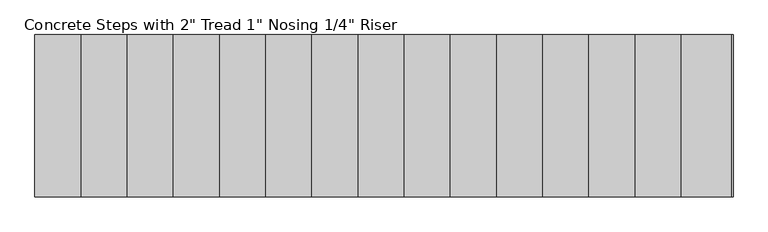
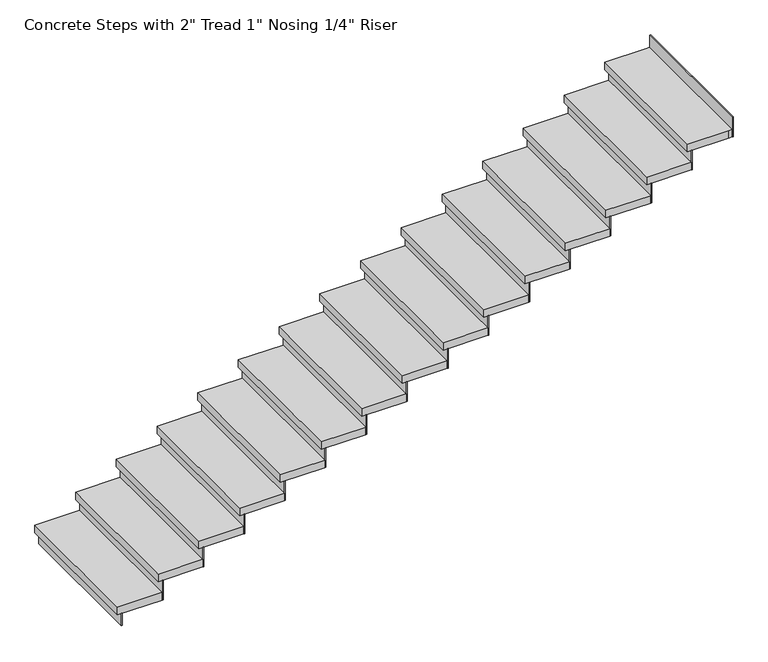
"""IFC4 building model written with IfcOpenShell, lengths in millimetres: stair flight geometry."""

import ifcopenshell
import ifcopenshell.guid

model = None  # the IFC model being written
_history = None  # IfcOwnerHistory: only IFC2X3 demands one
_inside = {}  # id of a spatial element -> (the spatial element, [elements in it])
_under = {}  # id of a project, library or spatial element -> (it, [spatial elements below it])
_declared = {}  # id of a project -> (the project, [libraries it declares])
_typed = {}  # id of a type object -> (the type object, [elements of that type])
_made_of = {}  # id of a material, layer set ... -> (it, [elements and type objects made of it])


def new_model(schema):
    """Start an empty IFC model of exactly this schema.

    Asked for "IFC4X3", IfcOpenShell would pick the latest addendum, in which some entities
    have other attributes; the version numbers below select the first issue.
    IFC2X3 requires an IfcOwnerHistory on every rooted entity: one is made here for all.
    """
    global model, _history
    if schema == "IFC4X3":
        model = ifcopenshell.file(schema_version=(4, 3, 0, 0))
    else:
        model = ifcopenshell.file(schema=schema)
    _inside.clear()
    _under.clear()
    _declared.clear()
    _typed.clear()
    _made_of.clear()
    _history = None
    if model.schema == "IFC2X3":
        org = make("IfcOrganization", Name="unknown")
        user = make(
            "IfcPersonAndOrganization",
            ThePerson=make("IfcPerson", FamilyName="unknown"),
            TheOrganization=org,
        )
        app = make(
            "IfcApplication",
            ApplicationDeveloper=org,
            Version="unknown",
            ApplicationFullName="unknown",
            ApplicationIdentifier="unknown",
        )
        _history = make(
            "IfcOwnerHistory",
            OwningUser=user,
            OwningApplication=app,
            ChangeAction="ADDED",
            CreationDate=0,
        )
    return model


def make(cls, **values):
    """One entity of the class cls with the attributes given. An attribute that is None is left unset."""
    return model.create_entity(
        cls, **{name: value for name, value in values.items() if value is not None}
    )


def rooted(cls, **values):
    """An entity with a GlobalId (a new one), such as an element, a storey or a relation."""
    return make(cls, GlobalId=ifcopenshell.guid.new(), OwnerHistory=_history, **values)


def si_unit(unit_type, name, prefix=None):
    """IfcSIUnit, for example si_unit("LENGTHUNIT", "METRE", prefix="MILLI")."""
    return make("IfcSIUnit", UnitType=unit_type, Prefix=prefix, Name=name)


def assignment(units):
    """IfcUnitAssignment: the units of a project."""
    return None if units is None else make("IfcUnitAssignment", Units=units)


def point(xyz):
    """IfcCartesianPoint."""
    return None if xyz is None else make("IfcCartesianPoint", Coordinates=xyz)


def direction(xyz):
    """IfcDirection."""
    return None if xyz is None else make("IfcDirection", DirectionRatios=xyz)


def frame(location, z_axis=None, x_axis=None):
    """IfcAxis2Placement3D, a coordinate frame: its origin and axes. An axis left out is left unset."""
    return make(
        "IfcAxis2Placement3D",
        Location=point(location),
        Axis=direction(z_axis),
        RefDirection=direction(x_axis),
    )


def origin():
    """The frame at (0, 0, 0) with its axes left unset."""
    return frame((0.0, 0.0, 0.0))


def origin_with_axes():
    """The frame at (0, 0, 0) with the z axis (0, 0, 1) and the x axis (1, 0, 0) written out."""
    return frame((0.0, 0.0, 0.0), z_axis=(0.0, 0.0, 1.0), x_axis=(1.0, 0.0, 0.0))


def place(relative_to, where):
    """IfcLocalPlacement: puts the frame where relative to a parent placement (None: the world)."""
    return make(
        "IfcLocalPlacement", PlacementRelTo=relative_to, RelativePlacement=where
    )


def context(
    kind, dimensions, precision=None, world=None, true_north=None, identifier=None
):
    """IfcGeometricRepresentationContext, for example the 3D "Model" context."""
    return make(
        "IfcGeometricRepresentationContext",
        ContextIdentifier=identifier,
        ContextType=kind,
        CoordinateSpaceDimension=dimensions,
        Precision=precision,
        WorldCoordinateSystem=world,
        TrueNorth=true_north,
    )


def project(units=None, contexts=None):
    """IfcProject with its units and contexts."""
    return rooted(
        "IfcProject",
        Name="project",
        RepresentationContexts=contexts,
        UnitsInContext=assignment(units),
    )


def spatial(cls, under=None, at=None, **own):
    """A site, building, storey or space (cls), placed at a placement, below another one or the project."""
    s = rooted(cls, ObjectPlacement=at, **own)
    if under is not None:
        _under.setdefault(under.id(), (under, []))[1].append(s)
    return s


def polyline(points):
    """IfcPolyline through the points."""
    return make("IfcPolyline", Points=[point(p) for p in points])


def outline(outer, holes=None, kind="AREA"):
    """IfcArbitraryClosedProfileDef: a profile drawn as a closed curve; with holes, ...WithVoids."""
    if holes is None:
        return make("IfcArbitraryClosedProfileDef", ProfileType=kind, OuterCurve=outer)
    return make(
        "IfcArbitraryProfileDefWithVoids",
        ProfileType=kind,
        OuterCurve=outer,
        InnerCurves=holes,
    )


def extrude(swept, where, along, depth):
    """IfcExtrudedAreaSolid: the profile swept, set in the frame where, extruded along a direction by depth."""
    return make(
        "IfcExtrudedAreaSolid",
        SweptArea=swept,
        Position=where,
        ExtrudedDirection=direction(along),
        Depth=depth,
    )


def shape(context_of_items, identifier, shape_type, items):
    """IfcShapeRepresentation: the items that make up one representation, for example the "Body"."""
    return make(
        "IfcShapeRepresentation",
        ContextOfItems=context_of_items,
        RepresentationIdentifier=identifier,
        RepresentationType=shape_type,
        Items=items,
    )


def source(mapping_origin, context_of_items, identifier, shape_type, items):
    """IfcRepresentationMap: a shape defined once, which mapped items show again and again."""
    return make(
        "IfcRepresentationMap",
        MappingOrigin=mapping_origin,
        MappedRepresentation=shape(context_of_items, identifier, shape_type, items),
    )


def transform(
    local_origin,
    x_axis=None,
    y_axis=None,
    z_axis=None,
    scale=None,
    scale2=None,
    scale3=None,
    uniform=True,
):
    """IfcCartesianTransformationOperator3D, or its non-uniform kind. x_axis, y_axis, z_axis: its Axis1, 2, 3."""
    if uniform:
        return make(
            "IfcCartesianTransformationOperator3D",
            Axis1=direction(x_axis),
            Axis2=direction(y_axis),
            LocalOrigin=point(local_origin),
            Scale=scale,
            Axis3=direction(z_axis),
        )
    return make(
        "IfcCartesianTransformationOperator3DnonUniform",
        Axis1=direction(x_axis),
        Axis2=direction(y_axis),
        LocalOrigin=point(local_origin),
        Scale=scale,
        Axis3=direction(z_axis),
        Scale2=scale2,
        Scale3=scale3,
    )


def mapped(mapping_source, mapping_target):
    """IfcMappedItem: shows the shape of a source again, moved by a transform."""
    return make(
        "IfcMappedItem", MappingSource=mapping_source, MappingTarget=mapping_target
    )


def made_of(thing, what):
    """Note that an element or type object is made of a material, layer set ...; save() writes the relation."""
    if what is not None:
        _made_of.setdefault(what.id(), (what, []))[1].append(thing)
    return thing


def element(
    cls,
    number,
    at=None,
    inside=None,
    cuts=None,
    type_object=None,
    material=None,
    context=None,
    identifier="Body",
    shape_type=None,
    held_by="IfcProductDefinitionShape",
    body=None,
    shapes=None,
    **own,
):
    """One element of the class cls, such as IfcWall. Its Tag is "e" and its number.

    at: its placement. inside: the storey or other place that contains it. cuts: it is an
    opening in that element (IfcRelVoidsElement). A single representation is given by context,
    identifier, shape_type and body (its items); several are given by shapes. held_by: the class
    of the entity that holds the representations. save() writes the other relations.
    """
    e = rooted(cls, Tag="e%d" % number, ObjectPlacement=at, **own)
    if body is not None:
        shapes = [shape(context, identifier, shape_type, body)]
    if shapes is not None:
        e.Representation = make(held_by, Representations=shapes)
    if inside is not None:
        _inside.setdefault(inside.id(), (inside, []))[1].append(e)
    if cuts is not None:
        rooted(
            "IfcRelVoidsElement", RelatingBuildingElement=cuts, RelatedOpeningElement=e
        )
    if type_object is not None:
        _typed.setdefault(type_object.id(), (type_object, []))[1].append(e)
    return made_of(e, material)


def aggregate(whole, parts):
    """IfcRelAggregates: a whole, such as a stair, and the parts it consists of."""
    return rooted("IfcRelAggregates", RelatingObject=whole, RelatedObjects=parts)


def save(model, path):
    """Write the relations noted so far, then the file.

    IfcRelAggregates (storeys below a building ...), IfcRelContainedInSpatialStructure (elements
    in a storey), IfcRelDefinesByType, IfcRelAssociatesMaterial and IfcRelDeclares: one each for
    every whole, place, type object, material and project.
    """
    for whole, parts in _under.values():
        aggregate(whole, parts)
    for where, things in _inside.values():
        rooted(
            "IfcRelContainedInSpatialStructure",
            RelatedElements=things,
            RelatingStructure=where,
        )
    for kind, things in _typed.values():
        rooted("IfcRelDefinesByType", RelatedObjects=things, RelatingType=kind)
    for what, things in _made_of.values():
        rooted("IfcRelAssociatesMaterial", RelatedObjects=things, RelatingMaterial=what)
    for by, libraries in _declared.values():
        rooted("IfcRelDeclares", RelatingContext=by, RelatedDefinitions=libraries)
    model.write(path)


def stair_flight_5856ef12(model_context):
    return source(origin(), model_context, "Body", "SweptSolid", [
        extrude(outline(polyline([(1403.4721922, 12968.7406645), (1397.1221922, 12968.7406645), (1397.1221922, 13883.1406645), (1403.4721922, 13883.1406645), (1403.4721922, 12968.7406645)])), origin_with_axes(), (0.0, 0.0, 1.0), 81.7217391),
        extrude(outline(polyline([(1657.4721922, 13883.1406645), (1657.4721922, 12968.7406645), (1371.7221922, 12968.7406645), (1371.7221922, 13883.1406645), (1657.4721922, 13883.1406645)])), frame((0.0, 0.0, 81.7217391), z_axis=(0.0, 0.0, 1.0), x_axis=(1.0, 0.0, 0.0)), (0.0, 0.0, 1.0), 50.8),
        extrude(outline(polyline([(1663.8221922, 12968.7406645), (1657.4721922, 12968.7406645), (1657.4721922, 13883.1406645), (1663.8221922, 13883.1406645), (1663.8221922, 12968.7406645)])), frame((0.0, 0.0, 81.7217391), z_axis=(0.0, 0.0, 1.0), x_axis=(1.0, 0.0, 0.0)), (0.0, 0.0, 1.0), 132.5217391),
        extrude(outline(polyline([(1917.8221922, 13883.1406645), (1917.8221922, 12968.7406645), (1632.0721922, 12968.7406645), (1632.0721922, 13883.1406645), (1917.8221922, 13883.1406645)])), frame((0.0, 0.0, 214.2434783), z_axis=(0.0, 0.0, 1.0), x_axis=(1.0, 0.0, 0.0)), (0.0, 0.0, 1.0), 50.8),
        extrude(outline(polyline([(1924.1721922, 12968.7406645), (1917.8221922, 12968.7406645), (1917.8221922, 13883.1406645), (1924.1721922, 13883.1406645), (1924.1721922, 12968.7406645)])), frame((0.0, 0.0, 214.2434783), z_axis=(0.0, 0.0, 1.0), x_axis=(1.0, 0.0, 0.0)), (0.0, 0.0, 1.0), 132.5217391),
        extrude(outline(polyline([(2178.1721922, 13883.1406645), (2178.1721922, 12968.7406645), (1892.4221922, 12968.7406645), (1892.4221922, 13883.1406645), (2178.1721922, 13883.1406645)])), frame((0.0, 0.0, 346.7652174), z_axis=(0.0, 0.0, 1.0), x_axis=(1.0, 0.0, 0.0)), (0.0, 0.0, 1.0), 50.8),
        extrude(outline(polyline([(2184.5221922, 12968.7406645), (2178.1721922, 12968.7406645), (2178.1721922, 13883.1406645), (2184.5221922, 13883.1406645), (2184.5221922, 12968.7406645)])), frame((0.0, 0.0, 346.7652174), z_axis=(0.0, 0.0, 1.0), x_axis=(1.0, 0.0, 0.0)), (0.0, 0.0, 1.0), 132.5217391),
        extrude(outline(polyline([(2438.5221922, 13883.1406645), (2438.5221922, 12968.7406645), (2152.7721922, 12968.7406645), (2152.7721922, 13883.1406645), (2438.5221922, 13883.1406645)])), frame((0.0, 0.0, 479.2869565), z_axis=(0.0, 0.0, 1.0), x_axis=(1.0, 0.0, 0.0)), (0.0, 0.0, 1.0), 50.8),
        extrude(outline(polyline([(2444.8721922, 12968.7406645), (2438.5221922, 12968.7406645), (2438.5221922, 13883.1406645), (2444.8721922, 13883.1406645), (2444.8721922, 12968.7406645)])), frame((0.0, 0.0, 479.2869565), z_axis=(0.0, 0.0, 1.0), x_axis=(1.0, 0.0, 0.0)), (0.0, 0.0, 1.0), 132.5217391),
        extrude(outline(polyline([(2698.8721922, 13883.1406645), (2698.8721922, 12968.7406645), (2413.1221922, 12968.7406645), (2413.1221922, 13883.1406645), (2698.8721922, 13883.1406645)])), frame((0.0, 0.0, 611.8086957), z_axis=(0.0, 0.0, 1.0), x_axis=(1.0, 0.0, 0.0)), (0.0, 0.0, 1.0), 50.8),
        extrude(outline(polyline([(2705.2221922, 12968.7406645), (2698.8721922, 12968.7406645), (2698.8721922, 13883.1406645), (2705.2221922, 13883.1406645), (2705.2221922, 12968.7406645)])), frame((0.0, 0.0, 611.8086957), z_axis=(0.0, 0.0, 1.0), x_axis=(1.0, 0.0, 0.0)), (0.0, 0.0, 1.0), 132.5217391),
        extrude(outline(polyline([(2959.2221922, 13883.1406645), (2959.2221922, 12968.7406645), (2673.4721922, 12968.7406645), (2673.4721922, 13883.1406645), (2959.2221922, 13883.1406645)])), frame((0.0, 0.0, 744.3304348), z_axis=(0.0, 0.0, 1.0), x_axis=(1.0, 0.0, 0.0)), (0.0, 0.0, 1.0), 50.8),
        extrude(outline(polyline([(2965.5721922, 12968.7406645), (2959.2221922, 12968.7406645), (2959.2221922, 13883.1406645), (2965.5721922, 13883.1406645), (2965.5721922, 12968.7406645)])), frame((0.0, 0.0, 744.3304348), z_axis=(0.0, 0.0, 1.0), x_axis=(1.0, 0.0, 0.0)), (0.0, 0.0, 1.0), 132.5217391),
        extrude(outline(polyline([(3219.5721922, 13883.1406645), (3219.5721922, 12968.7406645), (2933.8221922, 12968.7406645), (2933.8221922, 13883.1406645), (3219.5721922, 13883.1406645)])), frame((0.0, 0.0, 876.8521739), z_axis=(0.0, 0.0, 1.0), x_axis=(1.0, 0.0, 0.0)), (0.0, 0.0, 1.0), 50.8),
        extrude(outline(polyline([(3225.9221922, 12968.7406645), (3219.5721922, 12968.7406645), (3219.5721922, 13883.1406645), (3225.9221922, 13883.1406645), (3225.9221922, 12968.7406645)])), frame((0.0, 0.0, 876.8521739), z_axis=(0.0, 0.0, 1.0), x_axis=(1.0, 0.0, 0.0)), (0.0, 0.0, 1.0), 132.5217391),
        extrude(outline(polyline([(3479.9221922, 13883.1406645), (3479.9221922, 12968.7406645), (3194.1721922, 12968.7406645), (3194.1721922, 13883.1406645), (3479.9221922, 13883.1406645)])), frame((0.0, 0.0, 1009.373913), z_axis=(0.0, 0.0, 1.0), x_axis=(1.0, 0.0, 0.0)), (0.0, 0.0, 1.0), 50.8),
        extrude(outline(polyline([(3486.2721922, 12968.7406645), (3479.9221922, 12968.7406645), (3479.9221922, 13883.1406645), (3486.2721922, 13883.1406645), (3486.2721922, 12968.7406645)])), frame((0.0, 0.0, 1009.373913), z_axis=(0.0, 0.0, 1.0), x_axis=(1.0, 0.0, 0.0)), (0.0, 0.0, 1.0), 132.5217391),
        extrude(outline(polyline([(3740.2721922, 13883.1406645), (3740.2721922, 12968.7406645), (3454.5221922, 12968.7406645), (3454.5221922, 13883.1406645), (3740.2721922, 13883.1406645)])), frame((0.0, 0.0, 1141.8956522), z_axis=(0.0, 0.0, 1.0), x_axis=(1.0, 0.0, 0.0)), (0.0, 0.0, 1.0), 50.8),
        extrude(outline(polyline([(3746.6221922, 12968.7406645), (3740.2721922, 12968.7406645), (3740.2721922, 13883.1406645), (3746.6221922, 13883.1406645), (3746.6221922, 12968.7406645)])), frame((0.0, 0.0, 1141.8956522), z_axis=(0.0, 0.0, 1.0), x_axis=(1.0, 0.0, 0.0)), (0.0, 0.0, 1.0), 132.5217391),
        extrude(outline(polyline([(4000.6221922, 13883.1406645), (4000.6221922, 12968.7406645), (3714.8721922, 12968.7406645), (3714.8721922, 13883.1406645), (4000.6221922, 13883.1406645)])), frame((0.0, 0.0, 1274.4173913), z_axis=(0.0, 0.0, 1.0), x_axis=(1.0, 0.0, 0.0)), (0.0, 0.0, 1.0), 50.8),
        extrude(outline(polyline([(4006.9721922, 12968.7406645), (4000.6221922, 12968.7406645), (4000.6221922, 13883.1406645), (4006.9721922, 13883.1406645), (4006.9721922, 12968.7406645)])), frame((0.0, 0.0, 1274.4173913), z_axis=(0.0, 0.0, 1.0), x_axis=(1.0, 0.0, 0.0)), (0.0, 0.0, 1.0), 132.5217391),
        extrude(outline(polyline([(4260.9721922, 13883.1406645), (4260.9721922, 12968.7406645), (3975.2221922, 12968.7406645), (3975.2221922, 13883.1406645), (4260.9721922, 13883.1406645)])), frame((0.0, 0.0, 1406.9391304), z_axis=(0.0, 0.0, 1.0), x_axis=(1.0, 0.0, 0.0)), (0.0, 0.0, 1.0), 50.8),
        extrude(outline(polyline([(4267.3221922, 12968.7406645), (4260.9721922, 12968.7406645), (4260.9721922, 13883.1406645), (4267.3221922, 13883.1406645), (4267.3221922, 12968.7406645)])), frame((0.0, 0.0, 1406.9391304), z_axis=(0.0, 0.0, 1.0), x_axis=(1.0, 0.0, 0.0)), (0.0, 0.0, 1.0), 132.5217391),
        extrude(outline(polyline([(4521.3221922, 13883.1406645), (4521.3221922, 12968.7406645), (4235.5721922, 12968.7406645), (4235.5721922, 13883.1406645), (4521.3221922, 13883.1406645)])), frame((0.0, 0.0, 1539.4608696), z_axis=(0.0, 0.0, 1.0), x_axis=(1.0, 0.0, 0.0)), (0.0, 0.0, 1.0), 50.8),
        extrude(outline(polyline([(4527.6721922, 12968.7406645), (4521.3221922, 12968.7406645), (4521.3221922, 13883.1406645), (4527.6721922, 13883.1406645), (4527.6721922, 12968.7406645)])), frame((0.0, 0.0, 1539.4608696), z_axis=(0.0, 0.0, 1.0), x_axis=(1.0, 0.0, 0.0)), (0.0, 0.0, 1.0), 132.5217391),
        extrude(outline(polyline([(4781.6721922, 13883.1406645), (4781.6721922, 12968.7406645), (4495.9221922, 12968.7406645), (4495.9221922, 13883.1406645), (4781.6721922, 13883.1406645)])), frame((0.0, 0.0, 1671.9826087), z_axis=(0.0, 0.0, 1.0), x_axis=(1.0, 0.0, 0.0)), (0.0, 0.0, 1.0), 50.8),
        extrude(outline(polyline([(4788.0221922, 12968.7406645), (4781.6721922, 12968.7406645), (4781.6721922, 13883.1406645), (4788.0221922, 13883.1406645), (4788.0221922, 12968.7406645)])), frame((0.0, 0.0, 1671.9826087), z_axis=(0.0, 0.0, 1.0), x_axis=(1.0, 0.0, 0.0)), (0.0, 0.0, 1.0), 132.5217391),
        extrude(outline(polyline([(5042.0221922, 13883.1406645), (5042.0221922, 12968.7406645), (4756.2721922, 12968.7406645), (4756.2721922, 13883.1406645), (5042.0221922, 13883.1406645)])), frame((0.0, 0.0, 1804.5043478), z_axis=(0.0, 0.0, 1.0), x_axis=(1.0, 0.0, 0.0)), (0.0, 0.0, 1.0), 50.8),
        extrude(outline(polyline([(5308.7221922, 12968.7406645), (5302.3721922, 12968.7406645), (5302.3721922, 13883.1406645), (5308.7221922, 13883.1406645), (5308.7221922, 12968.7406645)])), frame((0.0, 0.0, 1937.026087), z_axis=(0.0, 0.0, 1.0), x_axis=(1.0, 0.0, 0.0)), (0.0, 0.0, 1.0), 132.5217391),
        extrude(outline(polyline([(5048.3721922, 12968.7406645), (5042.0221922, 12968.7406645), (5042.0221922, 13883.1406645), (5048.3721922, 13883.1406645), (5048.3721922, 12968.7406645)])), frame((0.0, 0.0, 1804.5043478), z_axis=(0.0, 0.0, 1.0), x_axis=(1.0, 0.0, 0.0)), (0.0, 0.0, 1.0), 132.5217391),
        extrude(outline(polyline([(5302.3721922, 13883.1406645), (5302.3721922, 12968.7406645), (5276.9721922, 12968.7406645), (5016.6221922, 12968.7406645), (5016.6221922, 13883.1406645), (5276.9721922, 13883.1406645), (5302.3721922, 13883.1406645)])), frame((0.0, 0.0, 1937.026087), z_axis=(0.0, 0.0, 1.0), x_axis=(1.0, 0.0, 0.0)), (0.0, 0.0, 1.0), 50.8),
    ])


if __name__ == "__main__":
    model = new_model("IFC4")
    model_context = context("Model", 3, world=origin())
    ifc_project = project(units=[si_unit("LENGTHUNIT", "METRE", prefix="MILLI")], contexts=[model_context])
    site = spatial("IfcSite", under=ifc_project)
    building = spatial("IfcBuilding", under=site)
    placement = place(None, origin())
    stair_flight_shape = stair_flight_5856ef12(model_context)
    element("IfcStairFlight", 1, ObjectType="Concrete Steps with 2\" Tread 1\" Nosing 1/4\" Riser", at=placement, inside=building, context=model_context, shape_type="MappedRepresentation", body=[
        mapped(stair_flight_shape, transform((0.0, 0.0, 0.0), x_axis=(1.0, 0.0, 0.0), y_axis=(0.0, 1.0, 0.0), z_axis=(0.0, 0.0, 1.0))),
    ])
    save(model, "model.ifc")
